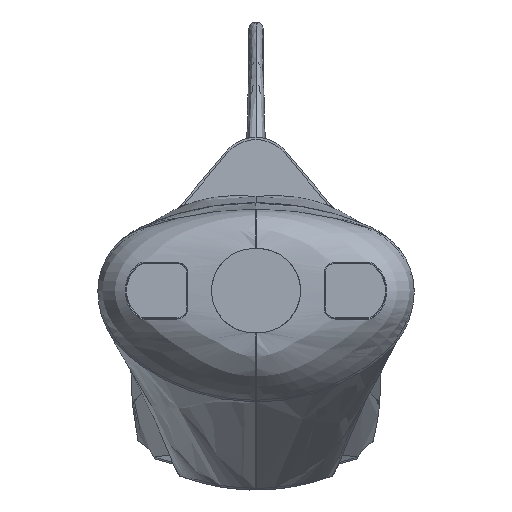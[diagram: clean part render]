
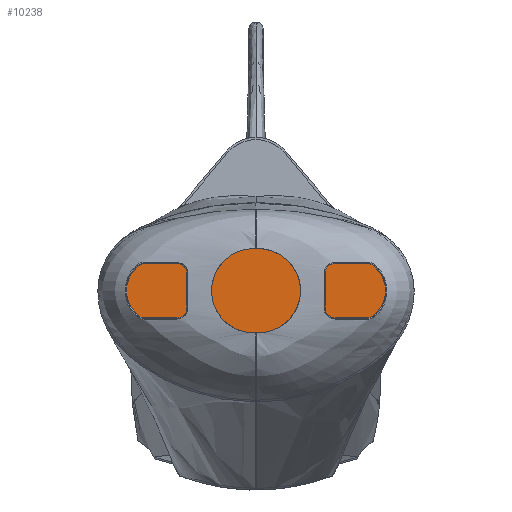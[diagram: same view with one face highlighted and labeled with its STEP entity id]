
A CAD part, top view. The second image highlights one B-rep face of the part: STEP entity #10238.
In plain terms, the highlighted planar face has unit normal (0, 0, 1).
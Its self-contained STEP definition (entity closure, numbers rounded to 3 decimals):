
#3702 = VERTEX_POINT ( 'NONE', #41933 ) ;
#3915 = ORIENTED_EDGE ( 'NONE', *, *, #24125, .F. ) ;
#5119 = DIRECTION ( 'NONE',  ( 0.342, 0.94, 0. ) ) ;
#5709 = CARTESIAN_POINT ( 'NONE',  ( 0., -78.527, -115. ) ) ;
#5752 = AXIS2_PLACEMENT_3D ( 'NONE', #5709, #54968, #59957 ) ;
#6887 = CARTESIAN_POINT ( 'NONE',  ( -32.978, -66., -115. ) ) ;
#7647 = CARTESIAN_POINT ( 'NONE',  ( 46.376, 25.096, -115. ) ) ;
#7691 = VERTEX_POINT ( 'NONE', #13118 ) ;
#8450 = EDGE_CURVE ( 'NONE', #51260, #7691, #67044, .T. ) ;
#9425 = VECTOR ( 'NONE', #5119, 1000. ) ;
#9506 = DIRECTION ( 'NONE',  ( 0.965, 0.263, 0. ) ) ;
#10238 = ADVANCED_FACE ( 'NONE', ( #49966 ), #62839, .T. ) ;
#10512 = AXIS2_PLACEMENT_3D ( 'NONE', #46095, #13550, #23598 ) ;
#10518 = VERTEX_POINT ( 'NONE', #35890 ) ;
#11572 = AXIS2_PLACEMENT_3D ( 'NONE', #63757, #24793, #36024 ) ;
#12625 = ORIENTED_EDGE ( 'NONE', *, *, #30272, .T. ) ;
#13118 = CARTESIAN_POINT ( 'NONE',  ( 32.978, -66., -115. ) ) ;
#13344 = LINE ( 'NONE', #69350, #46714 ) ;
#13550 = DIRECTION ( 'NONE',  ( 0., 0., 1. ) ) ;
#13710 = VERTEX_POINT ( 'NONE', #42544 ) ;
#13824 = LINE ( 'NONE', #16436, #30880 ) ;
#15473 = CARTESIAN_POINT ( 'NONE',  ( -43.319, -37.588, -115. ) ) ;
#16436 = CARTESIAN_POINT ( 'NONE',  ( 0., -75., -115. ) ) ;
#19425 = VECTOR ( 'NONE', #27824, 1000. ) ;
#21544 = CARTESIAN_POINT ( 'NONE',  ( 0., 35., -115. ) ) ;
#21546 = CARTESIAN_POINT ( 'NONE',  ( 57., 0., -115. ) ) ;
#21588 = EDGE_CURVE ( 'NONE', #51260, #68320, #13824, .T. ) ;
#21622 = CARTESIAN_POINT ( 'NONE',  ( -32.978, -66., -115. ) ) ;
#22083 = CARTESIAN_POINT ( 'NONE',  ( -38.206, 6.84, -115. ) ) ;
#22160 = CARTESIAN_POINT ( 'NONE',  ( 0., -75., -115. ) ) ;
#22460 = EDGE_CURVE ( 'NONE', #67324, #55991, #55810, .T. ) ;
#22574 = AXIS2_PLACEMENT_3D ( 'NONE', #38530, #27733, #38045 ) ;
#23598 = DIRECTION ( 'NONE',  ( 0., 1., 0. ) ) ;
#23842 = AXIS2_PLACEMENT_3D ( 'NONE', #22083, #70953, #60359 ) ;
#24125 = EDGE_CURVE ( 'NONE', #38050, #13710, #33406, .T. ) ;
#24793 = DIRECTION ( 'NONE',  ( 0., 0., 1. ) ) ;
#26252 = LINE ( 'NONE', #21622, #19425 ) ;
#26946 = VERTEX_POINT ( 'NONE', #21546 ) ;
#27369 = LINE ( 'NONE', #52002, #9425 ) ;
#27733 = DIRECTION ( 'NONE',  ( 0., 0., 1. ) ) ;
#27824 = DIRECTION ( 'NONE',  ( -0.342, 0.94, 0. ) ) ;
#29789 = CIRCLE ( 'NONE', #5752, 113.527 ) ;
#30272 = EDGE_CURVE ( 'NONE', #3702, #26946, #27369, .T. ) ;
#30603 = CIRCLE ( 'NONE', #22574, 20. ) ;
#30880 = VECTOR ( 'NONE', #54054, 1000. ) ;
#31952 = DIRECTION ( 'NONE',  ( -0.342, 0.94, 0. ) ) ;
#33406 = CIRCLE ( 'NONE', #23842, 20. ) ;
#35890 = CARTESIAN_POINT ( 'NONE',  ( -43.319, -37.588, -115. ) ) ;
#36024 = DIRECTION ( 'NONE',  ( 0., -1., 0. ) ) ;
#36478 = ORIENTED_EDGE ( 'NONE', *, *, #54458, .F. ) ;
#36669 = EDGE_CURVE ( 'NONE', #10518, #38050, #68456, .T. ) ;
#38045 = DIRECTION ( 'NONE',  ( 0., -1., 0. ) ) ;
#38050 = VERTEX_POINT ( 'NONE', #70689 ) ;
#38530 = CARTESIAN_POINT ( 'NONE',  ( 38.206, 6.84, -115. ) ) ;
#38931 = EDGE_CURVE ( 'NONE', #26946, #67324, #30603, .T. ) ;
#39798 = ORIENTED_EDGE ( 'NONE', *, *, #8450, .T. ) ;
#40628 = DIRECTION ( 'NONE',  ( 0.342, 0.94, 0. ) ) ;
#41933 = CARTESIAN_POINT ( 'NONE',  ( 43.319, -37.588, -115. ) ) ;
#42544 = CARTESIAN_POINT ( 'NONE',  ( -46.376, 25.096, -115. ) ) ;
#44089 = ORIENTED_EDGE ( 'NONE', *, *, #22460, .T. ) ;
#45267 = VECTOR ( 'NONE', #31952, 1000. ) ;
#46095 = CARTESIAN_POINT ( 'NONE',  ( 0., -78.527, -115. ) ) ;
#46714 = VECTOR ( 'NONE', #40628, 1000. ) ;
#49966 = FACE_OUTER_BOUND ( 'NONE', #62226, .T. ) ;
#51103 = EDGE_CURVE ( 'NONE', #13710, #55991, #29789, .T. ) ;
#51260 = VERTEX_POINT ( 'NONE', #22160 ) ;
#52002 = CARTESIAN_POINT ( 'NONE',  ( 43.319, -37.588, -115. ) ) ;
#52501 = VECTOR ( 'NONE', #9506, 1000. ) ;
#53788 = CARTESIAN_POINT ( 'NONE',  ( 0., -75., -115. ) ) ;
#54054 = DIRECTION ( 'NONE',  ( -0.965, 0.263, 0. ) ) ;
#54458 = EDGE_CURVE ( 'NONE', #68320, #10518, #26252, .T. ) ;
#54968 = DIRECTION ( 'NONE',  ( 0., 0., -1. ) ) ;
#55810 = CIRCLE ( 'NONE', #10512, 113.527 ) ;
#55991 = VERTEX_POINT ( 'NONE', #21544 ) ;
#56137 = ORIENTED_EDGE ( 'NONE', *, *, #38931, .T. ) ;
#59957 = DIRECTION ( 'NONE',  ( 0., 1., 0. ) ) ;
#60359 = DIRECTION ( 'NONE',  ( 0., -1., 0. ) ) ;
#62226 = EDGE_LOOP ( 'NONE', ( #56137, #44089, #63607, #3915, #63576, #36478, #69581, #39798, #63025, #12625 ) ) ;
#62839 = PLANE ( 'NONE',  #11572 ) ;
#63025 = ORIENTED_EDGE ( 'NONE', *, *, #67347, .T. ) ;
#63576 = ORIENTED_EDGE ( 'NONE', *, *, #36669, .F. ) ;
#63607 = ORIENTED_EDGE ( 'NONE', *, *, #51103, .F. ) ;
#63757 = CARTESIAN_POINT ( 'NONE',  ( 38.206, 6.84, -115. ) ) ;
#67044 = LINE ( 'NONE', #53788, #52501 ) ;
#67324 = VERTEX_POINT ( 'NONE', #7647 ) ;
#67347 = EDGE_CURVE ( 'NONE', #7691, #3702, #13344, .T. ) ;
#68320 = VERTEX_POINT ( 'NONE', #6887 ) ;
#68456 = LINE ( 'NONE', #15473, #45267 ) ;
#69350 = CARTESIAN_POINT ( 'NONE',  ( 32.978, -66., -115. ) ) ;
#69581 = ORIENTED_EDGE ( 'NONE', *, *, #21588, .F. ) ;
#70689 = CARTESIAN_POINT ( 'NONE',  ( -57., 0., -115. ) ) ;
#70953 = DIRECTION ( 'NONE',  ( 0., 0., -1. ) ) ;
